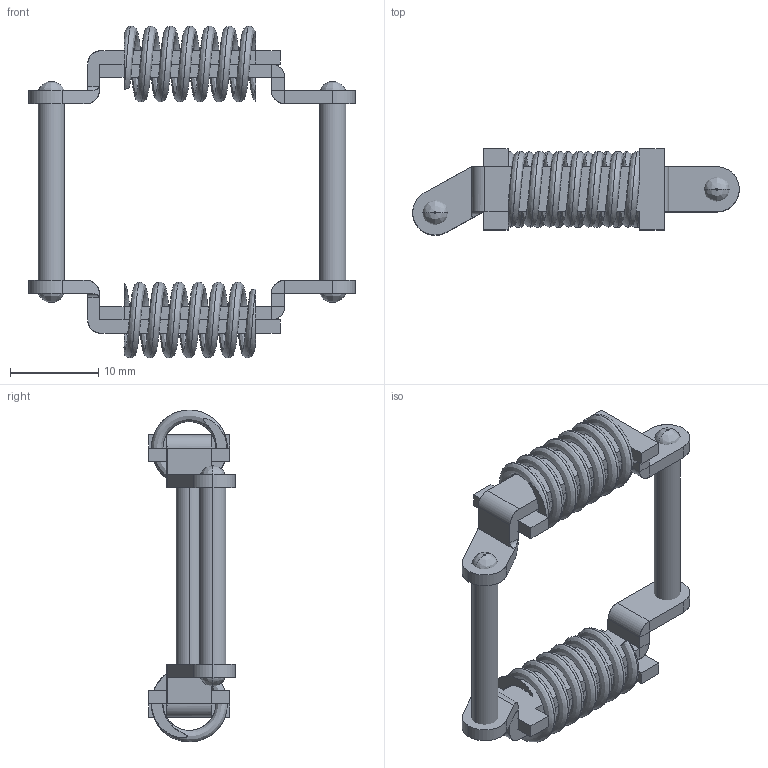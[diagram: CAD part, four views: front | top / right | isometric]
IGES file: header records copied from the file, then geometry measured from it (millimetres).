
Start section: SolidWorks IGES FILE using analytic representation for surfaces
Global section: file name: C:\Documents and Settings\lecoutey\Bureau\GP 2029\Assemblage ressort 2029.IGS; native system: SolidWorks 2004 by SolidWorks Corporation; preprocessor: Version 5.3; author: lecoutey; date: 050329.160614; units: millimetre
Bounding box: 37 x 9.79 x 37.6 mm (x, y, z)
Surface area: 3632.5 mm2 (no closed solid volume)
Topology: 0 solids, 0 shells, 128 faces, 1398 edges, 1398 vertices
Faces by surface type: bspline 96, revolution 32
